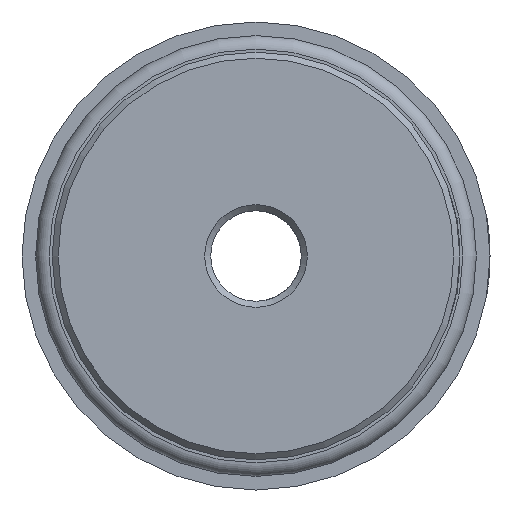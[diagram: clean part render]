
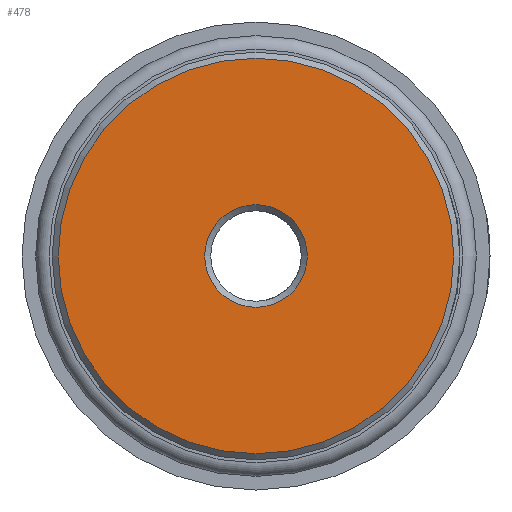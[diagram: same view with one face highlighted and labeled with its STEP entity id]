
A CAD part, left-side view. The second image highlights one B-rep face of the part: STEP entity #478.
In plain terms, the highlighted planar face has unit normal (-1, 0, 0).
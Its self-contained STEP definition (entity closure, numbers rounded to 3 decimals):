
#478 = ADVANCED_FACE( 'NONE', ( #1054, #1055 ), #1056, .F. );
#1054 = FACE_OUTER_BOUND( '', #1803, .T. );
#1055 = FACE_BOUND( '', #1804, .T. );
#1056 = PLANE( '', #1805 );
#1803 = EDGE_LOOP( '', ( #2816 ) );
#1804 = EDGE_LOOP( '', ( #2817 ) );
#1805 = AXIS2_PLACEMENT_3D( '', #2818, #2819, #2820 );
#2816 = ORIENTED_EDGE( '', *, *, #3894, .T. );
#2817 = ORIENTED_EDGE( '', *, *, #3865, .T. );
#2818 = CARTESIAN_POINT( '', ( 0., 1.5, 0. ) );
#2819 = DIRECTION( '', ( 1., 0., 0. ) );
#2820 = DIRECTION( '', ( 0., 1., 0. ) );
#3865 = EDGE_CURVE( 'NONE', #4505, #4505, #4506, .T. );
#3894 = EDGE_CURVE( 'NONE', #4550, #4550, #4551, .F. );
#4505 = VERTEX_POINT( '', #5346 );
#4506 = CIRCLE( '', #5347, 1.7 );
#4550 = VERTEX_POINT( '', #5428 );
#4551 = CIRCLE( '', #5429, 6.55 );
#5346 = CARTESIAN_POINT( '', ( 0., 0., -1.7 ) );
#5347 = AXIS2_PLACEMENT_3D( '', #6251, #6252, #6253 );
#5428 = CARTESIAN_POINT( '', ( 0., 0., -6.55 ) );
#5429 = AXIS2_PLACEMENT_3D( '', #6301, #6302, #6303 );
#6251 = CARTESIAN_POINT( '', ( 0., 0., 0. ) );
#6252 = DIRECTION( '', ( 1., 0., 0. ) );
#6253 = DIRECTION( '', ( 0., 0., -1. ) );
#6301 = CARTESIAN_POINT( '', ( 0., 0., 0. ) );
#6302 = DIRECTION( '', ( 1., 0., 0. ) );
#6303 = DIRECTION( '', ( 0., 0., -1. ) );
